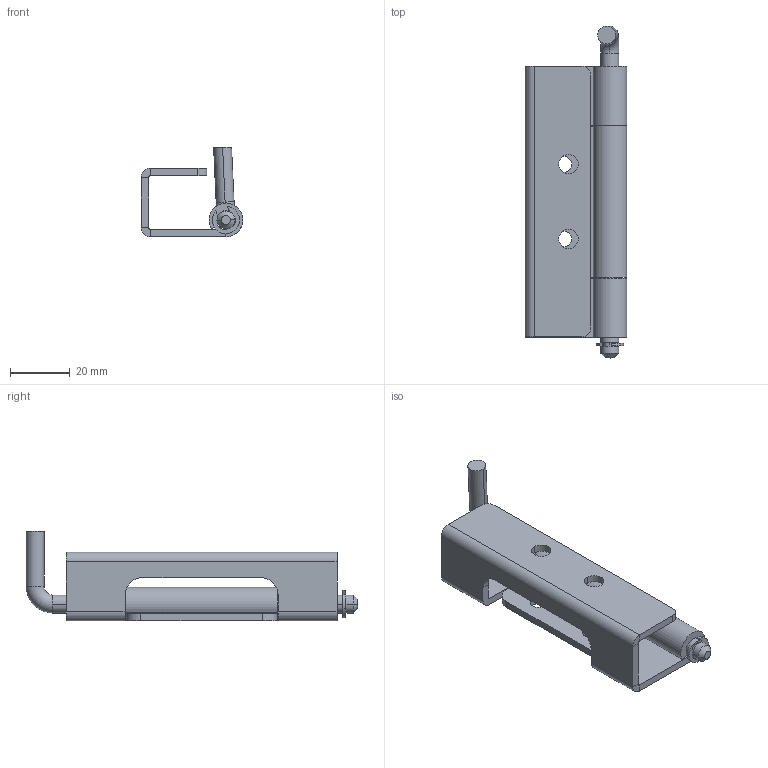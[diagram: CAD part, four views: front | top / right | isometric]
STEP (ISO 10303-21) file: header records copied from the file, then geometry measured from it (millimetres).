
FILE_DESCRIPTION (( 'STEP AP203' ), '1' );
FILE_NAME ('XG02-056-3.STEP', '2023-12-09T02:26:30', ( '' ), ( '' ), 'SwSTEP 2.0', 'SolidWorks 2020', '' );
FILE_SCHEMA (( 'CONFIG_CONTROL_DESIGN' ));
Length unit declared in the file: millimetre
Products named in the file (5): HL048a; HL031 C- C; XG02-056-3; HL048; HL048b
Assembly tree (4 placements, depth 2):
  XG02-056-3
    HL048a
    HL048
    HL048b
    HL031 C- C
Bounding box: 33.99 x 111 x 30.06 mm (x, y, z)
Volume: 21227.4 mm3; surface area: 18670 mm2
Topology: 4 solids, 4 shells, 96 faces, 230 edges, 144 vertices
Faces by surface type: plane 51, cylinder 41, torus 2, cone 2
Entity records: 3317 total; most frequent: DIRECTION 524, CARTESIAN_POINT 477, ORIENTED_EDGE 460, EDGE_CURVE 230, AXIS2_PLACEMENT_3D 191, VERTEX_POINT 144, LINE 142, VECTOR 142
